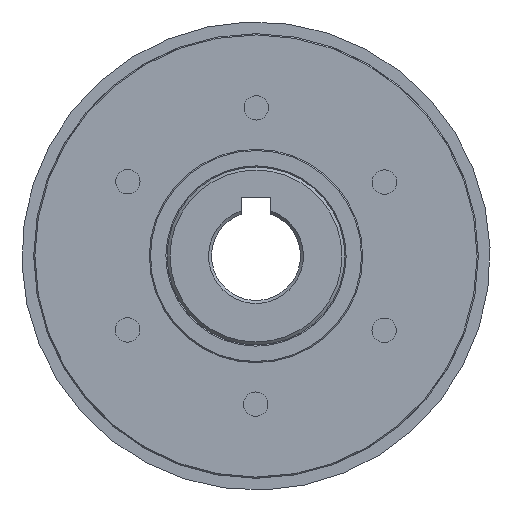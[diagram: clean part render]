
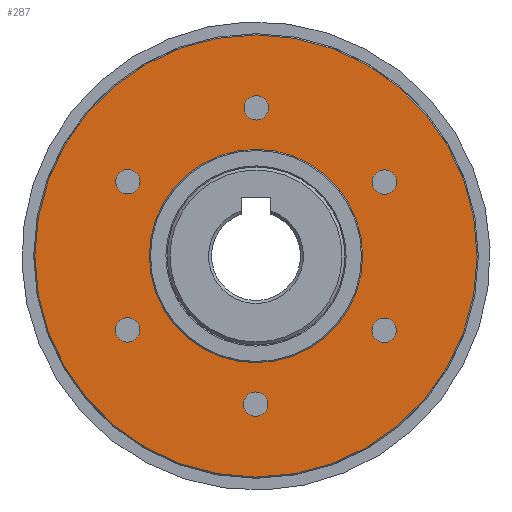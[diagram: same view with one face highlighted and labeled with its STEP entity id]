
A CAD part, left-side view. The second image highlights one B-rep face of the part: STEP entity #287.
In plain terms, the highlighted planar face has unit normal (-1, 0, 0).
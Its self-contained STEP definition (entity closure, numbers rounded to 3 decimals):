
#287 = ADVANCED_FACE( '', ( #579, #580, #581, #582, #583, #584, #585, #586 ), #587, .T. );
#579 = FACE_BOUND( '', #916, .T. );
#580 = FACE_BOUND( '', #917, .T. );
#581 = FACE_BOUND( '', #918, .T. );
#582 = FACE_BOUND( '', #919, .T. );
#583 = FACE_BOUND( '', #920, .T. );
#584 = FACE_BOUND( '', #921, .T. );
#585 = FACE_OUTER_BOUND( '', #922, .T. );
#586 = FACE_BOUND( '', #923, .T. );
#587 = PLANE( '', #924 );
#916 = EDGE_LOOP( '', ( #1308 ) );
#917 = EDGE_LOOP( '', ( #1309 ) );
#918 = EDGE_LOOP( '', ( #1310 ) );
#919 = EDGE_LOOP( '', ( #1311 ) );
#920 = EDGE_LOOP( '', ( #1312 ) );
#921 = EDGE_LOOP( '', ( #1313 ) );
#922 = EDGE_LOOP( '', ( #1314 ) );
#923 = EDGE_LOOP( '', ( #1315 ) );
#924 = AXIS2_PLACEMENT_3D( '', #1316, #1317, #1318 );
#1308 = ORIENTED_EDGE( '', *, *, #1638, .T. );
#1309 = ORIENTED_EDGE( '', *, *, #1628, .T. );
#1310 = ORIENTED_EDGE( '', *, *, #1646, .T. );
#1311 = ORIENTED_EDGE( '', *, *, #1587, .T. );
#1312 = ORIENTED_EDGE( '', *, *, #1651, .T. );
#1313 = ORIENTED_EDGE( '', *, *, #1671, .T. );
#1314 = ORIENTED_EDGE( '', *, *, #1672, .T. );
#1315 = ORIENTED_EDGE( '', *, *, #1648, .F. );
#1316 = CARTESIAN_POINT( '', ( 13., 0., 18. ) );
#1317 = DIRECTION( '', ( -1., 0., 0. ) );
#1318 = DIRECTION( '', ( 0., 0., 1. ) );
#1587 = EDGE_CURVE( '', #1770, #1770, #1771, .T. );
#1628 = EDGE_CURVE( '', #1837, #1837, #1838, .T. );
#1638 = EDGE_CURVE( '', #1850, #1850, #1851, .T. );
#1646 = EDGE_CURVE( '', #1863, #1863, #1864, .T. );
#1648 = EDGE_CURVE( '', #1866, #1866, #1867, .T. );
#1651 = EDGE_CURVE( '', #1871, #1871, #1872, .T. );
#1671 = EDGE_CURVE( '', #1902, #1902, #1903, .T. );
#1672 = EDGE_CURVE( '', #1904, #1904, #1905, .T. );
#1770 = VERTEX_POINT( '', #2174 );
#1771 = CIRCLE( '', #2175, 2.067 );
#1837 = VERTEX_POINT( '', #2248 );
#1838 = CIRCLE( '', #2249, 2.067 );
#1850 = VERTEX_POINT( '', #2267 );
#1851 = CIRCLE( '', #2268, 2.067 );
#1863 = VERTEX_POINT( '', #2280 );
#1864 = CIRCLE( '', #2281, 2.067 );
#1866 = VERTEX_POINT( '', #2283 );
#1867 = CIRCLE( '', #2284, 18. );
#1871 = VERTEX_POINT( '', #2288 );
#1872 = CIRCLE( '', #2289, 2.067 );
#1902 = VERTEX_POINT( '', #2319 );
#1903 = CIRCLE( '', #2320, 2.067 );
#1904 = VERTEX_POINT( '', #2321 );
#1905 = CIRCLE( '', #2322, 37.3 );
#2174 = CARTESIAN_POINT( '', ( 13., -23.441, -13.534 ) );
#2175 = AXIS2_PLACEMENT_3D( '', #2588, #2589, #2590 );
#2248 = CARTESIAN_POINT( '', ( 13., 23.441, -13.534 ) );
#2249 = AXIS2_PLACEMENT_3D( '', #2658, #2659, #2660 );
#2267 = CARTESIAN_POINT( '', ( 13., 23.441, 13.534 ) );
#2268 = AXIS2_PLACEMENT_3D( '', #2670, #2671, #2672 );
#2280 = CARTESIAN_POINT( '', ( 13., 0., -27.067 ) );
#2281 = AXIS2_PLACEMENT_3D( '', #2685, #2686, #2687 );
#2283 = CARTESIAN_POINT( '', ( 13., 0., 18. ) );
#2284 = AXIS2_PLACEMENT_3D( '', #2688, #2689, #2690 );
#2288 = CARTESIAN_POINT( '', ( 13., -23.441, 13.534 ) );
#2289 = AXIS2_PLACEMENT_3D( '', #2694, #2695, #2696 );
#2319 = CARTESIAN_POINT( '', ( 13., 0., 27.067 ) );
#2320 = AXIS2_PLACEMENT_3D( '', #2727, #2728, #2729 );
#2321 = CARTESIAN_POINT( '', ( 13., 0., 37.3 ) );
#2322 = AXIS2_PLACEMENT_3D( '', #2730, #2731, #2732 );
#2588 = CARTESIAN_POINT( '', ( 13., -21.651, -12.5 ) );
#2589 = DIRECTION( '', ( 1., 0., 0. ) );
#2590 = DIRECTION( '', ( 0., -0.866, -0.5 ) );
#2658 = CARTESIAN_POINT( '', ( 13., 21.651, -12.5 ) );
#2659 = DIRECTION( '', ( 1., 0., 0. ) );
#2660 = DIRECTION( '', ( 0., 0.866, -0.5 ) );
#2670 = CARTESIAN_POINT( '', ( 13., 21.651, 12.5 ) );
#2671 = DIRECTION( '', ( 1., 0., 0. ) );
#2672 = DIRECTION( '', ( 0., 0.866, 0.5 ) );
#2685 = CARTESIAN_POINT( '', ( 13., 0., -25. ) );
#2686 = DIRECTION( '', ( 1., 0., 0. ) );
#2687 = DIRECTION( '', ( 0., 0., -1. ) );
#2688 = CARTESIAN_POINT( '', ( 13., 0., 0. ) );
#2689 = DIRECTION( '', ( -1., 0., 0. ) );
#2690 = DIRECTION( '', ( 0., 0., 1. ) );
#2694 = CARTESIAN_POINT( '', ( 13., -21.651, 12.5 ) );
#2695 = DIRECTION( '', ( 1., 0., 0. ) );
#2696 = DIRECTION( '', ( 0., -0.866, 0.5 ) );
#2727 = CARTESIAN_POINT( '', ( 13., 0., 25. ) );
#2728 = DIRECTION( '', ( 1., 0., 0. ) );
#2729 = DIRECTION( '', ( 0., 0., 1. ) );
#2730 = CARTESIAN_POINT( '', ( 13., 0., 0. ) );
#2731 = DIRECTION( '', ( -1., 0., 0. ) );
#2732 = DIRECTION( '', ( 0., 0., 1. ) );
